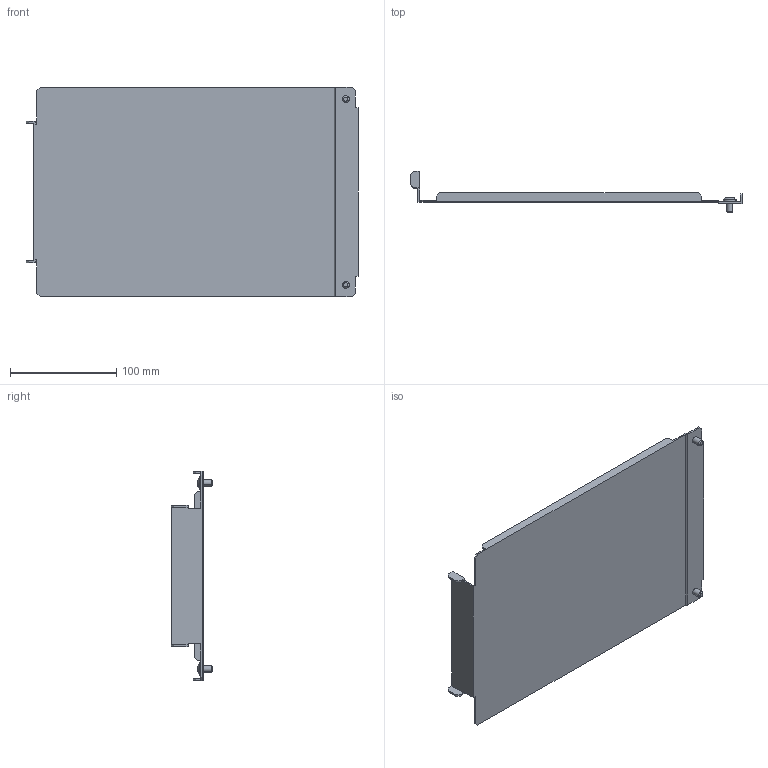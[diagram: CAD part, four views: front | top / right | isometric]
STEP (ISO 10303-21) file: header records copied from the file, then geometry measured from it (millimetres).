
FILE_DESCRIPTION (( 'STEP AP214' ), '1' );
FILE_NAME ('FO-00-PVHC-025 Ïåðåãîðîäêà àïïàðàòíîãî îòñåêà áîêîâàÿ âåðòèêàëüíàÿ ñïëîøíàÿ âûñîòà 250 ìì.STEP', '2025-08-18T06:38:08', ( '' ), ( '' ), 'SwSTEP 2.0', 'SolidWorks 2023', '' );
FILE_SCHEMA (( 'AUTOMOTIVE_DESIGN' ));
Length unit declared in the file: millimetre
Products named in the file (1): FO-00-PVHC-025 Перегородка аппаратного отсека боковая вертикальная сплошная высота 250 мм
Bounding box: 312.84 x 38.98 x 197 mm (x, y, z)
Volume: 103836.8 mm3; surface area: 139302 mm2
Topology: 1 solids, 1 shells, 130 faces, 360 edges, 236 vertices
Faces by surface type: plane 76, cylinder 42, torus 4, cone 4, sphere 4
Entity records: 4207 total; most frequent: CARTESIAN_POINT 861, ORIENTED_EDGE 720, DIRECTION 658, EDGE_CURVE 360, VECTOR 256, LINE 256, VERTEX_POINT 236, AXIS2_PLACEMENT_3D 201
